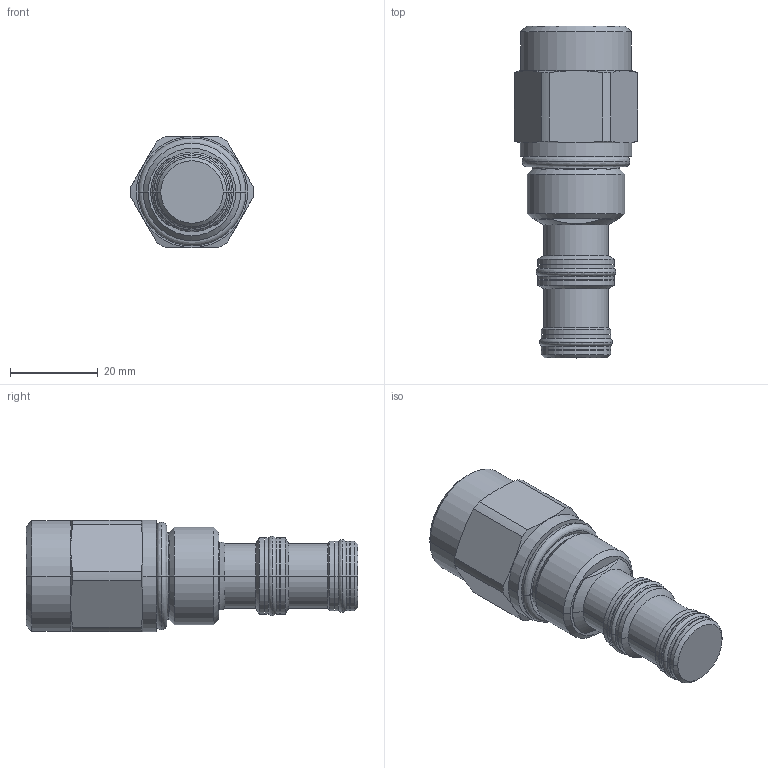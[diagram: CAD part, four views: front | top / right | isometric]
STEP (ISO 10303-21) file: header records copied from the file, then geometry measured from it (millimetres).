
FILE_DESCRIPTION((''),'2;1');
FILE_NAME('5261607_SW0001','2009-02-09T',('jcs'),(''),'PRO/ENGINEER BY PARAMETRIC TECHNOLOGY CORPORATION, 2008010','PRO/ENGINEER BY PARAMETRIC TECHNOLOGY CORPORATION, 2008010','');
FILE_SCHEMA(('CONFIG_CONTROL_DESIGN'));
Length unit declared in the file: inch
Products named in the file (1): 5261607_SW0001
Bounding box: 28.19 x 75.72 x 25.4 mm (x, y, z)
Volume: 27254.9 mm3; surface area: 8208.7 mm2
Topology: 7 solids, 7 shells, 134 faces, 284 edges, 166 vertices
Faces by surface type: cylinder 48, cone 24, plane 24, revolution 24, torus 14
Entity records: 4162 total; most frequent: CARTESIAN_POINT 1190, DIRECTION 648, ORIENTED_EDGE 568, EDGE_CURVE 284, AXIS2_PLACEMENT_3D 274, VERTEX_POINT 166, CIRCLE 164, EDGE_LOOP 148
